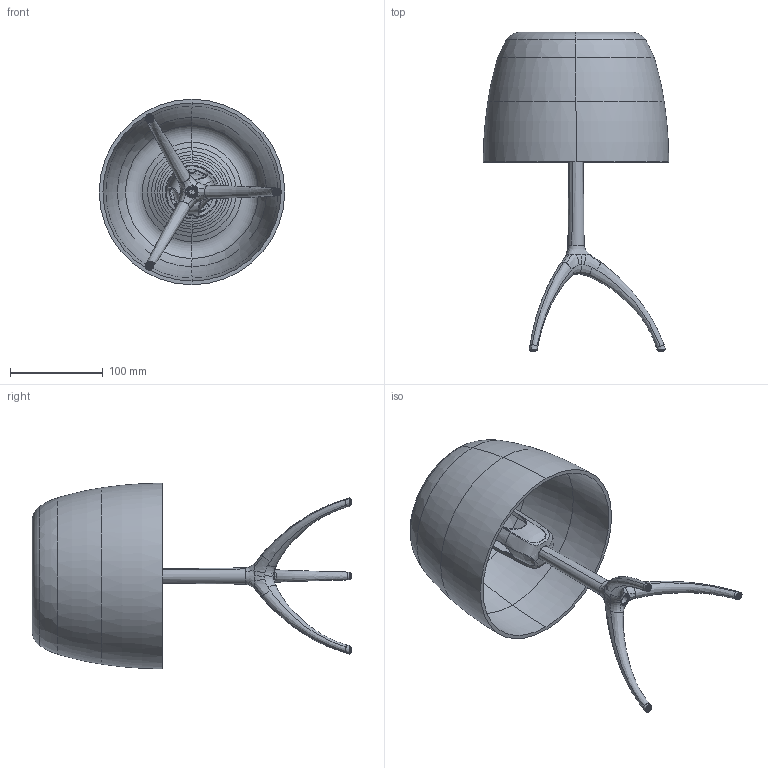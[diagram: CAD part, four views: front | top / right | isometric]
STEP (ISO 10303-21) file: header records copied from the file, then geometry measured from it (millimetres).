
FILE_DESCRIPTION (( 'STEP AP214' ), '1' );
FILE_NAME ('026_PICCOLA_T_PL_3D.STEP', '2021-05-05T06:48:40', ( '' ), ( '' ), 'SwSTEP 2.0', 'SolidWorks 2021', '' );
FILE_SCHEMA (( 'AUTOMOTIVE_DESIGN' ));
Length unit declared in the file: millimetre
Products named in the file (1): 026_PICCOLA_T_PL_3D
Bounding box: 200.04 x 344.54 x 200.04 mm (x, y, z)
Volume: 493862.1 mm3; surface area: 252001.4 mm2
Topology: 8 solids, 8 shells, 429 faces, 1109 edges, 710 vertices
Faces by surface type: bspline 126, plane 102, cylinder 67, cone 56, sphere 56, torus 22
Entity records: 99513 total; most frequent: CARTESIAN_POINT 85153, ORIENTED_EDGE 2218, DIRECTION 1706, EDGE_CURVE 1109, AXIS2_PLACEMENT_3D 757, VERTEX_POINT 710, EDGE_LOOP 457, CIRCLE 453
